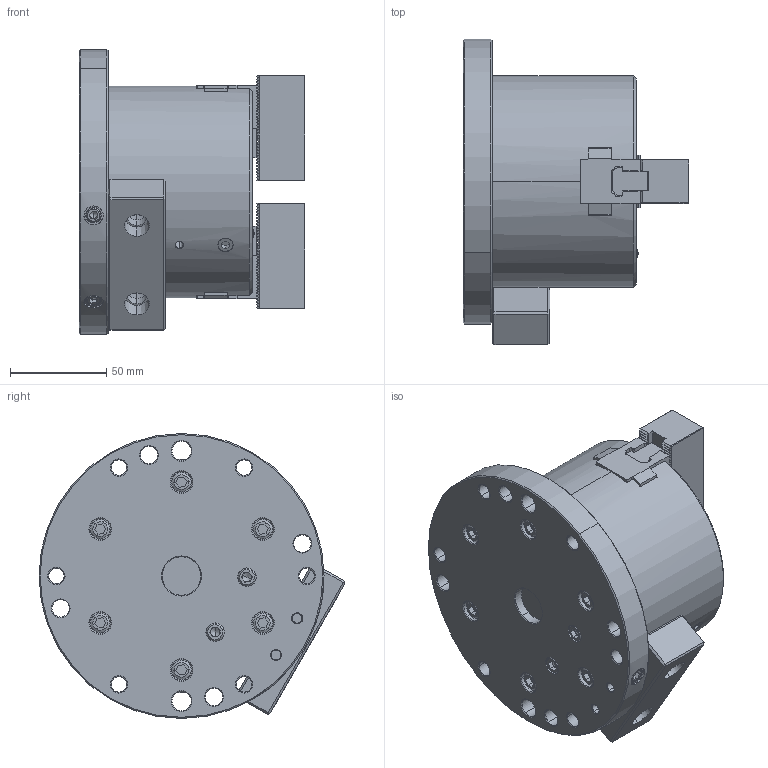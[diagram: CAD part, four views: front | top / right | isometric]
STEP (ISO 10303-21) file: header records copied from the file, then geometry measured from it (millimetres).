
FILE_DESCRIPTION (( 'STEP AP214' ), '1' );
FILE_NAME ('AT04_61P395649-4_UC.STEP', '2020-06-23T01:10:24', ( '' ), ( '' ), 'SwSTEP 2.0', 'SolidWorks 2017', '' );
FILE_SCHEMA (( 'AUTOMOTIVE_DESIGN' ));
Length unit declared in the file: millimetre
Products named in the file (5): Part2^61P390015 クミタテ; AT04_61P395649-4_UC; Bアナツキ M8×22; 61P400832-5_T僫僢僩; P31487-4_ソフトジョー
Assembly tree (9 placements, depth 2):
  AT04_61P395649-4_UC
    P31487-4_ソフトジョー  x2
    61P400832-5_T僫僢僩  x2
    Bアナツキ M8×22  x4
    Part2^61P390015 クミタテ
Bounding box: 117.2 x 158.88 x 148 mm (x, y, z)
Volume: 1053900 mm3; surface area: 120620.8 mm2
Topology: 9 solids, 15 shells, 2180 faces, 5886 edges, 3816 vertices
Faces by surface type: plane 1572, cylinder 321, cone 216, bspline 47, torus 20, sphere 4
Entity records: 59755 total; most frequent: CARTESIAN_POINT 13227, ORIENTED_EDGE 9904, DIRECTION 9165, EDGE_CURVE 4952, VECTOR 3855, LINE 3855, VERTEX_POINT 3209, AXIS2_PLACEMENT_3D 2655
